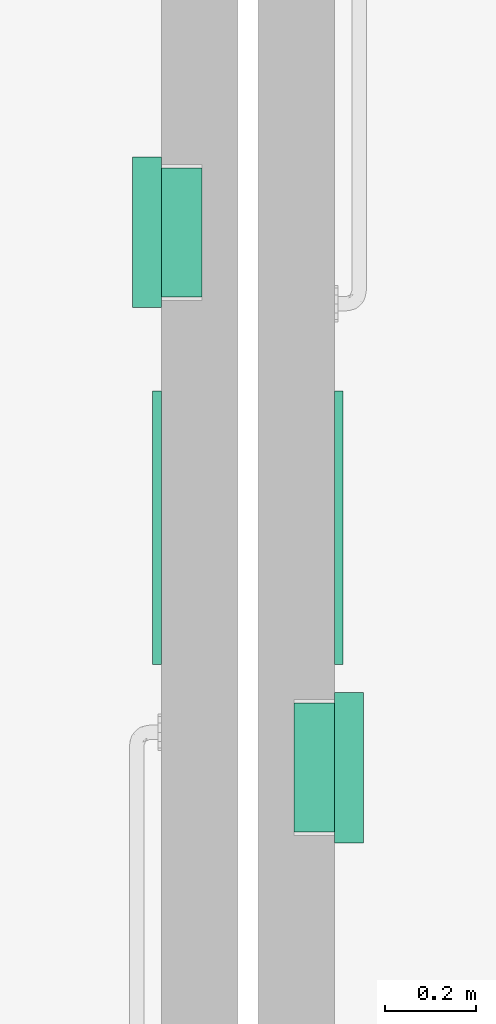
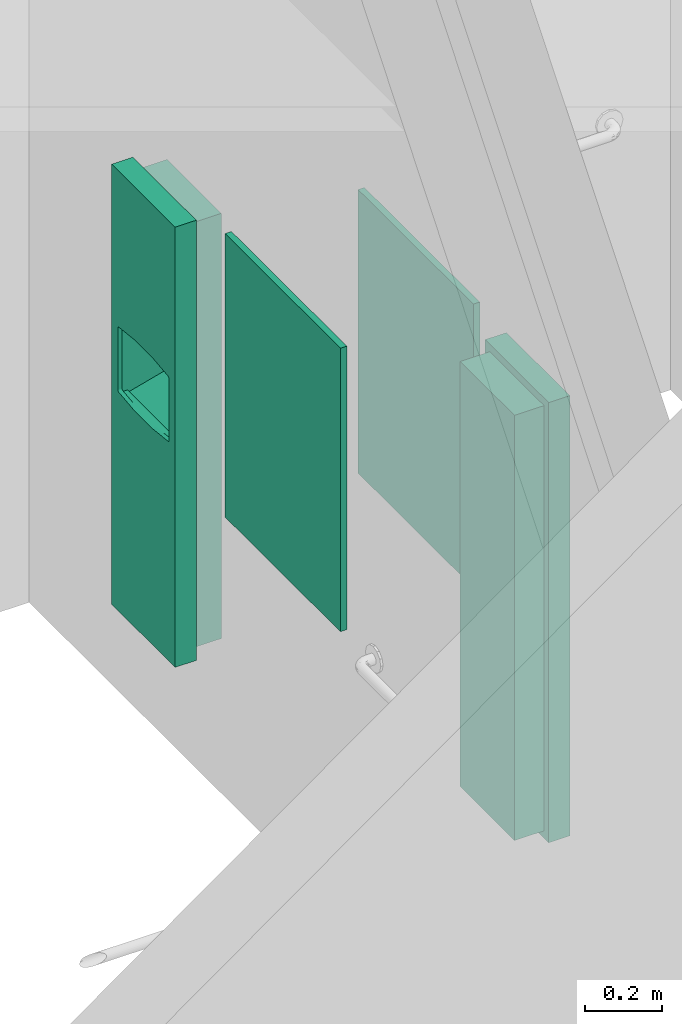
# One storey, part 37 of 47: 4 flow terminals.
"""IFC2X3 building model written with IfcOpenShell, lengths in metres."""

from ifc_helpers import new_model, entity, si_unit, converted_unit, frame, origin, origin_2d_with_axis, place, context, project, spatial, rectangle, extrude, face_set, surface_model, source, transform, mapped, type_object, type_shapes, element, save


model = new_model("IFC2X3")

# Units and contexts
model_context = context("Model", 3, precision=1e-09, world=origin())
plan_context = context("Plan", 3, precision=1e-09, world=origin())
ifc_project = project(units=[si_unit("LENGTHUNIT", "METRE"), si_unit("AREAUNIT", "SQUARE_METRE"), si_unit("VOLUMEUNIT", "CUBIC_METRE"), converted_unit("PLANEANGLEUNIT", "DEGREE", entity("IfcRatioMeasure", 0.01745329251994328), si_unit("PLANEANGLEUNIT", "RADIAN"), dimensions=[0, 0, 0, 0, 0, 0, 0]), si_unit("TIMEUNIT", "SECOND")], contexts=[model_context, plan_context])

# Site, building, storey, space
site_placement = place(None, origin())
site = spatial("IfcSite", under=ifc_project, at=site_placement, Name="Default", CompositionType="ELEMENT")
building_placement = place(site_placement, origin())
building = spatial("IfcBuilding", under=site, at=building_placement, CompositionType="ELEMENT")
storey_placement = place(building_placement, frame((0.0, 0.0, 4.570000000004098)))
storey = spatial("IfcBuildingStorey", under=building, at=storey_placement, Name="Second Floor", CompositionType="ELEMENT", Elevation=4.570000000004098)
space_1_placement = place(storey_placement, origin())
space_1 = spatial("IfcSpace", under=storey, at=space_1_placement, Name="2B6", CompositionType="ELEMENT", InteriorOrExteriorSpace="INTERNAL")

# Flow terminal
sanitary_terminal_type_1 = type_object("IfcSanitaryTerminalType", Name="Mirror 600mm x 900mm", PredefinedType="NOTDEFINED")
shared_shape_1 = source(origin(), model_context, "Body", "SweptSolid", [
    extrude(rectangle(XDim=0.01905, YDim=0.5999999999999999, at=origin_2d_with_axis()), frame((0.02447030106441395, 0.093525, 1.0), z_axis=(0.0, 0.0, 1.0), x_axis=(0.0, -1.0, 0.0)), (0.0, 0.0, 1.0), 0.8999999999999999),
])
type_shapes(sanitary_terminal_type_1, [shared_shape_1])
flow_terminal_1_placement = place(space_1_placement, frame((-7.16600000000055, 21.47396840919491, -0.08499999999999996), z_axis=(0.0, 0.0, 1.0), x_axis=(0.0, 1.0, 0.0)))
element("IfcFlowTerminal", 1, at=flow_terminal_1_placement, inside=space_1, type_object=sanitary_terminal_type_1, Name="M_Mirror:Mirror 600mm x 900mm:Mirror 600mm x 900mm", ObjectType="Mirror 600mm x 900mm", context=model_context, shape_type="MappedRepresentation", body=[
    mapped(shared_shape_1, transform((0.0, 0.0, 0.0), scale=1.0)),
])

# Space
space_2_placement = place(storey_placement, origin())
space_2 = spatial("IfcSpace", under=storey, at=space_2_placement, Name="2B5", CompositionType="ELEMENT", InteriorOrExteriorSpace="INTERNAL")

# Flow terminals
flow_terminal_2_placement = place(space_2_placement, frame((-6.954000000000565, 21.52290901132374, -0.08499999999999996), z_axis=(0.0, 0.0, 1.0), x_axis=(0.0, -1.0, 0.0)))
element("IfcFlowTerminal", 2, at=flow_terminal_2_placement, inside=space_2, type_object=sanitary_terminal_type_1, Name="M_Mirror:Mirror 600mm x 900mm:Mirror 600mm x 900mm", ObjectType="Mirror 600mm x 900mm", context=model_context, shape_type="MappedRepresentation", body=[
    mapped(shared_shape_1, transform((0.0, 0.0, 0.0), scale=1.0)),
])
sanitary_terminal_type_2 = type_object("IfcSanitaryTerminalType", Name="Semi-Recessed", PredefinedType="NOTDEFINED")
shared_shape_2 = source(origin(), model_context, "Body", "SurfaceModel", [
    surface_model("IfcFaceBasedSurfaceModel", [(0.3047999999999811, 1.371600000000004, 0.006350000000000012), (0.02539999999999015, 1.371600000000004, 0.006350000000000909), (0.02539999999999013, 0.02540000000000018, 0.006350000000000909), (0.3047999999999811, 0.02540000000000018, 0.006350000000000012), (0.3047999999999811, 1.371600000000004, 0.0), (0.02539999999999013, 1.371600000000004, 0.0), (0.02539999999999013, 0.02540000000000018, 0.0), (0.3047999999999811, 0.02540000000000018, 0.0), (0.3047999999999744, 0.8683625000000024, 0.0314087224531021), (0.304799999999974, 0.8683625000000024, 0.0), (0.304799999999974, 1.371600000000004, 0.0), (0.3047999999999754, 1.371600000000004, 0.1396999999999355), (0.3047999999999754, 0.9274310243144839, 0.139699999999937), (0.3047999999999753, 0.9028355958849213, 0.1191121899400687), (0.304799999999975, 0.8840898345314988, 0.09308548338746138), (0.3047999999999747, 0.8723562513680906, 0.06323391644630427), (0.02539999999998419, 0.8683625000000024, 0.03140872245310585), (0.02539999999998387, 0.8683625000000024, 0.0), (0.02539999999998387, 1.371600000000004, 0.0), (0.02539999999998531, 1.371600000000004, 0.1396999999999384), (0.02539999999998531, 0.9274310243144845, 0.1396999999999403), (0.02539999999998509, 0.9028355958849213, 0.1191121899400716), (0.02539999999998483, 0.8840898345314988, 0.09308548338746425), (0.02539999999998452, 0.8723562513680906, 0.06323391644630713), (0.1650999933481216, 0.8971245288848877, 0.1125374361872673), (0.244423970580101, 0.8850007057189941, 0.0947267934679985), (0.3048000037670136, 0.8934627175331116, 0.1060988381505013), (0.225727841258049, 0.8897196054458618, 0.1024402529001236), (0.1240624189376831, 0.8936511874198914, 0.1080563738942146), (0.1443802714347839, 0.89626145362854, 0.1114614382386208), (0.02539999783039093, 0.8934627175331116, 0.1060988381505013), (0.2975995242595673, 0.8728225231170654, 0.06500939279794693), (0.2961554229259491, 0.8724397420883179, 0.06352298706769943), (0.08576729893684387, 0.8849983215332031, 0.09472260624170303), (0.05923719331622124, 0.8781034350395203, 0.0805450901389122), (0.06810294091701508, 0.8800443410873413, 0.08500713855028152), (0.02539999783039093, 0.8811564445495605, 0.08562259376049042), (0.03954862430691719, 0.8766331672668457, 0.07681932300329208), (0.04958875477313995, 0.8769928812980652, 0.07776296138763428), (0.02539999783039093, 0.8782230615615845, 0.07815969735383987), (0.03264534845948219, 0.875198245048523, 0.07281118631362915), (0.02539999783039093, 0.8767563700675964, 0.0744282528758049), (0.02539999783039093, 0.87602299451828, 0.07256253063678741), (0.2946777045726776, 0.8762261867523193, 0.07572414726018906), (0.3048000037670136, 0.8767563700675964, 0.0744282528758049), (0.3048000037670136, 0.8774896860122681, 0.07629397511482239), (0.2906513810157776, 0.8717893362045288, 0.0609215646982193), (0.3048000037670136, 0.871357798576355, 0.05527761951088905), (0.3048000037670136, 0.8718570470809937, 0.05925576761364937), (0.02539999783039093, 0.874556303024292, 0.06883108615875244), (0.03170676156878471, 0.8735430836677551, 0.0675705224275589), (0.03171554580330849, 0.8739543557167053, 0.06892137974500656), (0.104461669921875, 0.889717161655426, 0.1024366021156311), (0.02539999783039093, 0.8752896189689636, 0.07069680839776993), (0.03172433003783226, 0.8743656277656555, 0.07027223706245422), (0.03218483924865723, 0.8747819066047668, 0.07154171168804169), (0.185808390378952, 0.8962624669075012, 0.1114626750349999), (0.3048000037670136, 0.8703593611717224, 0.04732131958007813), (0.2280749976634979, 0.8709259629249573, 0.05697767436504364), (0.2061262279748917, 0.8936530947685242, 0.1080589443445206), (0.3048000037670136, 0.8752896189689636, 0.07069680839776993), (0.297547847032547, 0.8752022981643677, 0.07282306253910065), (0.2980738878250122, 0.8745774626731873, 0.0708826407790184), (0.2985999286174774, 0.8739525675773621, 0.06894221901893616), (0.3048000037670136, 0.874556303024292, 0.06883108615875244), (0.2709419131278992, 0.8781068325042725, 0.08055329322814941), (0.3048000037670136, 0.8811564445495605, 0.08562259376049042), (0.2620970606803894, 0.8800443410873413, 0.08500713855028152), (0.2805894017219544, 0.8769944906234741, 0.07776710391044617), (0.3048000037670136, 0.8782230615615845, 0.07815969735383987), (0.03435983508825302, 0.8722586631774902, 0.06284872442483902), (0.02539999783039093, 0.872106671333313, 0.06124484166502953), (0.0367727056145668, 0.8719081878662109, 0.06142202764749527), (0.2906513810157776, 0.8766331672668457, 0.07681932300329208), (0.02539999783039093, 0.8718570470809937, 0.05925576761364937), (0.3048000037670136, 0.8738229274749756, 0.06696536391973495), (0.2980997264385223, 0.8733875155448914, 0.06697580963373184), (0.3048000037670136, 0.872106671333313, 0.06124484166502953), (0.2947112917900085, 0.8720570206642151, 0.06203658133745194), (0.02539999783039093, 0.8738229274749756, 0.06696536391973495), (0.3048000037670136, 0.873089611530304, 0.06509964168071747), (0.02539999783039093, 0.8774896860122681, 0.07629397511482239), (0.03438528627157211, 0.8759323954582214, 0.07491400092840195), (0.03677724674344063, 0.8764464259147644, 0.07632055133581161), (0.03261014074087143, 0.8728178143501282, 0.0649920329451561), (0.02539999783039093, 0.8703593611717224, 0.04732131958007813), (0.1650999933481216, 0.8683624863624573, 0.03140872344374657), (0.03954862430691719, 0.8717893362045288, 0.0609215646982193), (0.1021250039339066, 0.8709259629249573, 0.05697767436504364), (0.02539999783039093, 0.871357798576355, 0.05527761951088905), (0.02539999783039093, 0.873089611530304, 0.06509964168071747), (0.2961127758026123, 0.8757142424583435, 0.07427360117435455), (0.3048000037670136, 0.87602299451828, 0.07256253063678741), (0.1650999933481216, 0.8701865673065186, 0.05300865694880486), (0.03954862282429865, 0.9617593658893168, 0.06092156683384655), (0.1650999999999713, 0.9617593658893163, 0.05300865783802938), (0.2906513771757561, 0.9617593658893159, 0.06092156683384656), (0.2927086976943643, 0.9617593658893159, 0.06119241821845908), (0.2946258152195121, 0.9617593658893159, 0.06198651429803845), (0.2962720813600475, 0.9617593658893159, 0.06324973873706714), (0.2975353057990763, 0.9617593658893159, 0.06489600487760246), (0.2983294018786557, 0.9617593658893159, 0.06681312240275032), (0.2986002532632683, 0.9617593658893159, 0.06887044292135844), (0.2983294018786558, 0.9617593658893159, 0.07092776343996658), (0.2975353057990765, 0.9617593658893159, 0.0728448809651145), (0.2962720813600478, 0.9617593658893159, 0.07449114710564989), (0.2946258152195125, 0.9617593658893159, 0.07575437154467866), (0.2927086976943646, 0.9617593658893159, 0.07654846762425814), (0.2906513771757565, 0.9617593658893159, 0.07681931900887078), (0.2806776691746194, 0.9617593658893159, 0.07775040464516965), (0.2710486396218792, 0.9617593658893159, 0.0805114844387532), (0.2620970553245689, 0.9617593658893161, 0.0850071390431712), (0.2316919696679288, 0.9617593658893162, 0.1002429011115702), (0.1989754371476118, 0.9617593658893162, 0.1095287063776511), (0.1651000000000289, 0.9617593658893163, 0.1125374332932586), (0.1312245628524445, 0.9617593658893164, 0.109528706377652), (0.09850803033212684, 0.9617593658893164, 0.1002429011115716), (0.06810294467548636, 0.9617593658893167, 0.08500713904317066), (0.05915136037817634, 0.9617593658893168, 0.08051148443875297), (0.04952233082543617, 0.9617593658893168, 0.07775040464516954), (0.03954862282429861, 0.9617593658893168, 0.07681931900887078), (0.03749130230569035, 0.9617593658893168, 0.0765484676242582), (0.03557418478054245, 0.9617593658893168, 0.07575437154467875), (0.03392791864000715, 0.9617593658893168, 0.07449114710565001), (0.03266469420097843, 0.9617593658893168, 0.07284488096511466), (0.03187059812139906, 0.9617593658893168, 0.07092776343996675), (0.03159974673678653, 0.9617593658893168, 0.06887044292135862), (0.03187059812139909, 0.9617593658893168, 0.06681312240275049), (0.03266469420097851, 0.9617593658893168, 0.0648960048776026), (0.03392791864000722, 0.9617593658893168, 0.06324973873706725), (0.03557418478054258, 0.9617593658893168, 0.06198651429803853), (0.03749130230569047, 0.9617593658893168, 0.06119241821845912), (0.3302000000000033, 1.397000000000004, 0.1523999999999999), (0.0, 1.397000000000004, 0.152400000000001), (0.0, 0.0, 0.152400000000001), (0.3302000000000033, 0.0, 0.1523999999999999), (0.03175000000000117, 0.7016793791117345, 0.1524000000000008), (0.03175000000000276, 0.8960819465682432, 0.1524000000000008), (0.03192255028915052, 0.8975521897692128, 0.1524000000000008), (0.03243082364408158, 0.8989425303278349, 0.1524000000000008), (0.03324719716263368, 0.9001774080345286, 0.1524000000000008), (0.03432730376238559, 0.9011897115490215, 0.1524000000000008), (0.03561244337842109, 0.9019244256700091, 0.1524000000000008), (0.03703277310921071, 0.9023416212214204, 0.1524000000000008), (0.1222300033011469, 0.9119737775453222, 0.1524000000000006), (0.2079699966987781, 0.911973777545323, 0.1524000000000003), (0.2931672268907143, 0.902341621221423, 0.1524), (0.2945875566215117, 0.9019244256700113, 0.1524), (0.2958726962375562, 0.9011897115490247, 0.1524), (0.2969528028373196, 0.9001774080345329, 0.1524), (0.297769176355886, 0.8989425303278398, 0.1524), (0.2982774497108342, 0.8975521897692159, 0.1524), (0.2984500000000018, 0.8960819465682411, 0.1524), (0.2984500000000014, 0.7016793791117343, 0.1524), (0.2982774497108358, 0.7002091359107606, 0.1524), (0.2977691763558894, 0.6988187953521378, 0.1524), (0.2969528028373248, 0.697583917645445, 0.1524), (0.2958726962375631, 0.6965716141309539, 0.1524), (0.29458755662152, 0.6958369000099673, 0.1524), (0.2931672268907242, 0.6954197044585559, 0.1524), (0.2079699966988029, 0.6857875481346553, 0.1524000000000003), (0.1222300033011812, 0.6857875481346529, 0.1524000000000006), (0.03703277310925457, 0.6954197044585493, 0.1524000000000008), (0.03561244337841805, 0.6958369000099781, 0.1524000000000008), (0.0343273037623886, 0.6965716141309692, 0.1524000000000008), (0.03324719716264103, 0.6975839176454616, 0.1524000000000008), (0.03243082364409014, 0.698818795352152, 0.1524000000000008), (0.03192255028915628, 0.7002091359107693, 0.1524000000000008), (0.3063874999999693, 1.373187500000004, 0.0), (0.02381249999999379, 1.373187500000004, 0.0), (0.02381249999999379, 0.02381250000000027, 0.0), (0.3063874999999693, 0.02381250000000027, 0.0), (0.3047999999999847, 1.371600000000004, 0.0), (0.3047999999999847, 0.02540000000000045, 0.0), (0.02539999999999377, 0.02540000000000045, 0.0), (0.02539999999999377, 1.371600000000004, 0.0), (0.304799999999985, 1.371600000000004, 0.08889999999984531), (0.3047999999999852, 1.371600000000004, 0.1396999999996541), (0.3047999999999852, 0.02540000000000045, 0.1396999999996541), (0.304799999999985, 0.02540000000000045, 0.08889999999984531), (0.02539999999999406, 0.02540000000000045, 0.08889999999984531), (0.02539999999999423, 0.02540000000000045, 0.139699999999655), (0.02539999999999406, 1.371600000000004, 0.08889999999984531), (0.02539999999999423, 1.371600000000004, 0.139699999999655), (0.02381249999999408, 1.373187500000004, 0.08889999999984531), (0.3063874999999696, 1.373187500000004, 0.08889999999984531), (0.02381249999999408, 0.02381250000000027, 0.08889999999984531), (0.3063874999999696, 0.02381250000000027, 0.08889999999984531), (0.3302000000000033, 1.397000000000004, 0.08889999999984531), (0.0, 1.397000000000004, 0.08889999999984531), (0.0, 0.0, 0.08889999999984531), (0.3302000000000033, 0.0, 0.08889999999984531), (0.3302000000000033, 1.397000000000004, 0.1396999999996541), (0.0, 1.397000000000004, 0.1396999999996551), (0.0, 0.0, 0.1396999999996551), (0.3302000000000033, 0.0, 0.1396999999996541), (0.0317500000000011, 0.7016793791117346, 0.139699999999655), (0.03175000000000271, 0.8960819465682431, 0.139699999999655), (0.03192255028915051, 0.8975521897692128, 0.139699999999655), (0.03243082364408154, 0.8989425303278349, 0.139699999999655), (0.03324719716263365, 0.9001774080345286, 0.139699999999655), (0.03432730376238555, 0.9011897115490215, 0.139699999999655), (0.03561244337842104, 0.9019244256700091, 0.139699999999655), (0.03703277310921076, 0.9023416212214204, 0.139699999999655), (0.1222300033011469, 0.9119737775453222, 0.1396999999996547), (0.207969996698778, 0.911973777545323, 0.1396999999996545), (0.2931672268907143, 0.902341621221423, 0.1396999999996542), (0.2945875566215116, 0.9019244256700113, 0.1396999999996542), (0.2958726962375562, 0.9011897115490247, 0.1396999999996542), (0.2969528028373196, 0.9001774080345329, 0.1396999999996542), (0.2977691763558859, 0.8989425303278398, 0.1396999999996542), (0.2982774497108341, 0.8975521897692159, 0.1396999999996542), (0.2984500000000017, 0.8960819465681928, 0.1396999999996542), (0.2984500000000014, 0.7016793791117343, 0.1396999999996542), (0.2982774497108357, 0.7002091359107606, 0.1396999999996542), (0.2977691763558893, 0.6988187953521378, 0.1396999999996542), (0.2969528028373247, 0.697583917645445, 0.1396999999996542), (0.295872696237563, 0.6965716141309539, 0.1396999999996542), (0.29458755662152, 0.6958369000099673, 0.1396999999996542), (0.2931672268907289, 0.6954197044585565, 0.1396999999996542), (0.2079699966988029, 0.6857875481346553, 0.1396999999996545), (0.1222300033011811, 0.6857875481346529, 0.1396999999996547), (0.0370327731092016, 0.6954197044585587, 0.139699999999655), (0.03561244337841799, 0.6958369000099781, 0.139699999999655), (0.03432730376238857, 0.6965716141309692, 0.139699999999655), (0.03324719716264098, 0.6975839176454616, 0.139699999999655), (0.03243082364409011, 0.698818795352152, 0.139699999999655), (0.03192255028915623, 0.7002091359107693, 0.139699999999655), (0.02698749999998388, 0.6774923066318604, 0.1206361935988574), (0.02698749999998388, 0.6858000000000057, 0.1206361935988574), (0.02698749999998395, 0.6858000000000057, 0.1397000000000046), (0.02698749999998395, 0.0253999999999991, 0.1397000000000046), (0.02698749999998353, 0.0253999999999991, 0.007937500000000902), (0.02698749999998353, 0.7076898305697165, 0.007937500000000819), (0.3032124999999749, 0.6774923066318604, 0.1206361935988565), (0.3032124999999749, 0.6858000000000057, 0.1206361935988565), (0.3032124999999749, 0.6858000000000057, 0.1397000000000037), (0.3032124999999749, 0.0253999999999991, 0.1397000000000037), (0.3032124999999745, 0.0253999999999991, 0.007937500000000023), (0.3032124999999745, 0.7076898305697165, 0.007937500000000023)], [face_set([[[0, 1, 2, 3]], [[4, 5, 6, 7]], [[1, 0, 4, 5]], [[2, 6, 5, 1]], [[3, 7, 6, 2]], [[0, 3, 7, 4]]]), face_set([[[8, 9, 10, 11, 12, 13, 14, 15]], [[16, 17, 18, 19, 20, 21, 22, 23]], [[9, 8, 16, 17]], [[10, 18, 17, 9]], [[11, 19, 18, 10]], [[12, 11, 19, 20]], [[24, 20, 21]], [[25, 26, 27]], [[28, 29, 21]], [[28, 21, 30]], [[15, 31, 32]], [[22, 33, 30]], [[24, 21, 29]], [[34, 35, 36]], [[37, 38, 39]], [[40, 41, 42]], [[39, 38, 34]], [[22, 35, 33]], [[39, 34, 36]], [[43, 44, 45]], [[46, 47, 48]], [[49, 50, 51]], [[33, 52, 30]], [[53, 54, 55]], [[24, 56, 13]], [[57, 47, 58]], [[24, 13, 12]], [[13, 56, 59]], [[59, 27, 26]], [[60, 61, 62]], [[62, 63, 64]], [[24, 12, 20]], [[55, 42, 53]], [[65, 66, 67]], [[25, 67, 14]], [[25, 14, 26]], [[65, 68, 69]], [[66, 65, 69]], [[70, 71, 72]], [[69, 68, 73]], [[72, 71, 74]], [[26, 13, 59]], [[54, 53, 49]], [[64, 60, 62]], [[75, 63, 76]], [[46, 77, 78]], [[79, 50, 49]], [[80, 76, 31]], [[39, 81, 37]], [[41, 82, 81]], [[49, 51, 54]], [[81, 82, 83]], [[40, 82, 41]], [[70, 84, 23]], [[84, 50, 79]], [[85, 16, 86]], [[28, 30, 52]], [[70, 23, 71]], [[87, 72, 74]], [[85, 88, 89]], [[87, 89, 88]], [[74, 89, 87]], [[84, 90, 23]], [[58, 47, 46]], [[35, 22, 36]], [[63, 75, 64]], [[91, 61, 92]], [[45, 73, 43]], [[80, 75, 76]], [[61, 60, 92]], [[15, 32, 78]], [[45, 69, 73]], [[92, 44, 91]], [[66, 14, 67]], [[84, 79, 90]], [[85, 93, 88]], [[86, 57, 93]], [[31, 15, 80]], [[77, 15, 78]], [[42, 55, 40]], [[58, 93, 57]], [[77, 46, 48]], [[8, 57, 86]], [[37, 81, 83]], [[44, 43, 91]], [[85, 86, 93]], [[94, 95, 96, 97, 98, 99, 100, 101, 102, 103, 104, 105, 106, 107, 108, 109, 110, 111, 112, 113, 114, 115, 116, 117, 118, 119, 120, 121, 122, 123, 124, 125, 126, 127, 128, 129, 130, 131]], [[95, 94, 87, 88, 93]], [[96, 95, 93, 58, 46]], [[46, 96, 97]], [[78, 98, 99]], [[97, 98, 78]], [[99, 100, 31]], [[46, 97, 78]], [[63, 31, 101]], [[31, 78, 99]], [[63, 101, 102]], [[101, 31, 100]], [[61, 104, 105]], [[43, 106, 107]], [[105, 106, 43]], [[73, 107, 108]], [[63, 103, 61]], [[103, 63, 102]], [[61, 103, 104]], [[61, 105, 43]], [[107, 73, 43]], [[108, 68, 73]], [[68, 108, 109]], [[109, 65, 68]], [[110, 67, 65]], [[67, 110, 111]], [[109, 110, 65]], [[111, 112, 25]], [[25, 67, 111]], [[27, 25, 112]], [[112, 59, 27]], [[113, 114, 56]], [[56, 59, 113]], [[24, 56, 114]], [[113, 59, 112]], [[114, 115, 29]], [[29, 24, 114]], [[28, 29, 115]], [[115, 116, 28]], [[116, 117, 33]], [[33, 52, 116]], [[35, 33, 117]], [[116, 52, 28]], [[118, 34, 35]], [[35, 117, 118]], [[118, 119, 34]], [[120, 37, 38]], [[38, 119, 120]], [[34, 119, 38]], [[37, 120, 121]], [[82, 122, 123]], [[121, 122, 83]], [[123, 124, 40]], [[37, 121, 83]], [[83, 122, 82]], [[40, 125, 54]], [[40, 82, 123]], [[54, 125, 126]], [[40, 124, 125]], [[84, 127, 128]], [[129, 84, 128]], [[72, 130, 131]], [[129, 130, 70]], [[87, 131, 94]], [[127, 50, 126]], [[127, 84, 50]], [[126, 50, 54]], [[70, 84, 129]], [[130, 72, 70]], [[131, 87, 72]]]), face_set([[[132, 133, 134, 135], [136, 137, 138, 139, 140, 141, 142, 143, 144, 145, 146, 147, 148, 149, 150, 151, 152, 153, 154, 155, 156, 157, 158, 159, 160, 161, 162, 163, 164, 165, 166, 167]], [[168, 169, 170, 171], [172, 173, 174, 175]], [[172, 176, 177, 178, 179, 173]], [[173, 174, 180, 181, 178, 179]], [[174, 175, 182, 183, 181, 180]], [[175, 182, 183, 177, 176, 172]], [[168, 169, 184, 185]], [[169, 184, 186, 170]], [[170, 186, 187, 171]], [[171, 168, 185, 187]], [[188, 189, 190, 191], [185, 187, 186, 184]], [[133, 132, 192, 188, 189, 193]], [[134, 133, 193, 189, 190, 194]], [[135, 134, 194, 190, 191, 195]], [[132, 135, 195, 191, 188, 192]], [[177, 183, 181, 178], [196, 197, 198, 199, 200, 201, 202, 203, 204, 205, 206, 207, 208, 209, 210, 211, 212, 213, 214, 215, 216, 217, 218, 219, 220, 221, 222, 223, 224, 225, 226, 227]], [[137, 136, 196, 197]], [[198, 197, 137, 138]], [[199, 198, 138, 139]], [[139, 140, 200, 199]], [[202, 201, 141, 142]], [[203, 202, 142, 143]], [[140, 141, 201, 200]], [[203, 143, 144, 204]], [[145, 205, 204, 144]], [[205, 145, 146, 206]], [[207, 206, 146, 147]], [[208, 207, 147, 148]], [[148, 149, 209, 208]], [[212, 211, 151, 152]], [[211, 210, 150, 151]], [[149, 150, 210, 209]], [[153, 213, 212, 152]], [[214, 213, 153, 154]], [[215, 214, 154, 155]], [[155, 156, 216, 215]], [[218, 217, 157, 158]], [[219, 218, 158, 159]], [[156, 157, 217, 216]], [[219, 159, 160, 220]], [[161, 221, 220, 160]], [[221, 161, 162, 222]], [[223, 222, 162, 163]], [[224, 223, 163, 164]], [[164, 165, 225, 224]], [[227, 226, 166, 167]], [[196, 227, 167, 136]], [[165, 166, 226, 225]]]), face_set([[[228, 229, 230, 231, 232, 233]], [[234, 235, 236, 237, 238, 239]], [[233, 228, 234, 239]], [[232, 238, 239, 233]], [[231, 237, 238, 232]], [[230, 231, 237, 236]], [[229, 230, 236, 235]], [[228, 234, 235, 229]]])]),
])
type_shapes(sanitary_terminal_type_2, [shared_shape_2])
flow_terminal_3_placement = place(space_2_placement, frame((-6.958900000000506, 20.80683871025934, 0.3428999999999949), z_axis=(1.0, 0.0, 0.0), x_axis=(0.0, 1.0, 0.0)))
element("IfcFlowTerminal", 3, at=flow_terminal_3_placement, inside=space_2, type_object=sanitary_terminal_type_2, Name="M_Towel Dispensers - receptical:Semi-Recessed:Semi-Recessed", ObjectType="Semi-Recessed", context=model_context, shape_type="MappedRepresentation", body=[
    mapped(shared_shape_2, transform((0.0, 0.0, 0.0), scale=1.0)),
])
flow_terminal_4_placement = place(space_1_placement, frame((-7.16110000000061, 22.31123871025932, 0.3428999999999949), z_axis=(-1.0, 0.0, 0.0), x_axis=(0.0, -1.0, 0.0)))
element("IfcFlowTerminal", 4, at=flow_terminal_4_placement, inside=space_1, type_object=sanitary_terminal_type_2, Name="M_Towel Dispensers - receptical:Semi-Recessed:Semi-Recessed", ObjectType="Semi-Recessed", context=model_context, shape_type="MappedRepresentation", body=[
    mapped(shared_shape_2, transform((0.0, 0.0, 0.0), scale=1.0)),
])

save(model, "model.ifc")
